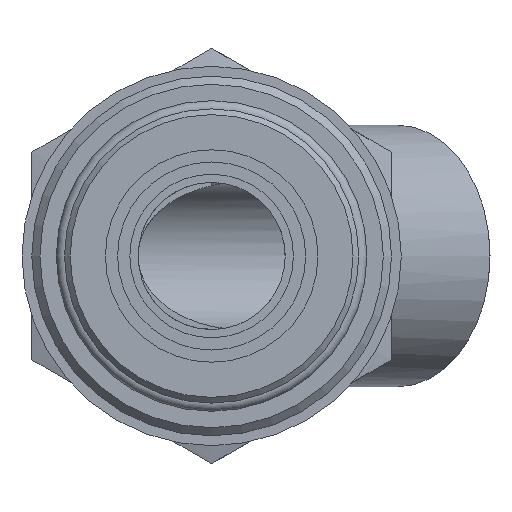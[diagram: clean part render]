
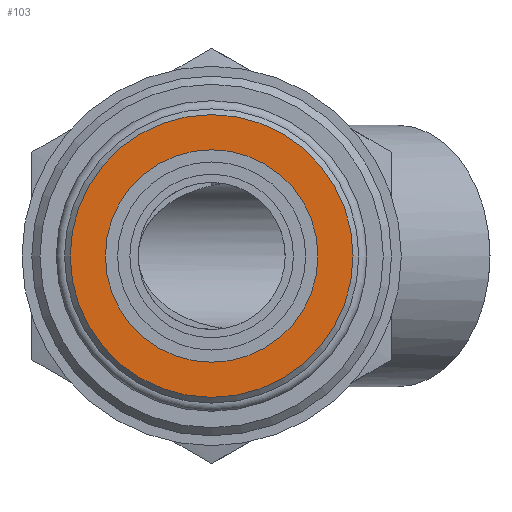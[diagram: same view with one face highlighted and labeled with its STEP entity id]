
A CAD part, left-side view. The second image highlights one B-rep face of the part: STEP entity #103.
In plain terms, the highlighted planar face has unit normal (-1, 0, 0).
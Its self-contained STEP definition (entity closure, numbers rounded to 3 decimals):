
#103 = ADVANCED_FACE( '', ( #204, #205 ), #206, .F. );
#204 = FACE_OUTER_BOUND( '', #352, .T. );
#205 = FACE_BOUND( '', #353, .T. );
#206 = PLANE( '', #354 );
#352 = EDGE_LOOP( '', ( #602 ) );
#353 = EDGE_LOOP( '', ( #603 ) );
#354 = AXIS2_PLACEMENT_3D( '', #604, #605, #606 );
#602 = ORIENTED_EDGE( '', *, *, #838, .F. );
#603 = ORIENTED_EDGE( '', *, *, #837, .T. );
#604 = CARTESIAN_POINT( '', ( -54., 0., 0. ) );
#605 = DIRECTION( '', ( 1., 0., 0. ) );
#606 = DIRECTION( '', ( 0., 0., -1. ) );
#837 = EDGE_CURVE( '', #965, #965, #966, .T. );
#838 = EDGE_CURVE( '', #967, #967, #968, .T. );
#965 = VERTEX_POINT( '', #1160 );
#966 = CIRCLE( '', #1161, 6.5 );
#967 = VERTEX_POINT( '', #1162 );
#968 = CIRCLE( '', #1163, 8.65 );
#1160 = CARTESIAN_POINT( '', ( -54., 0., -6.5 ) );
#1161 = AXIS2_PLACEMENT_3D( '', #1413, #1414, #1415 );
#1162 = CARTESIAN_POINT( '', ( -54., 0., -8.65 ) );
#1163 = AXIS2_PLACEMENT_3D( '', #1416, #1417, #1418 );
#1413 = CARTESIAN_POINT( '', ( -54., 0., 0. ) );
#1414 = DIRECTION( '', ( 1., 0., 0. ) );
#1415 = DIRECTION( '', ( 0., 0., -1. ) );
#1416 = CARTESIAN_POINT( '', ( -54., 0., 0. ) );
#1417 = DIRECTION( '', ( 1., 0., 0. ) );
#1418 = DIRECTION( '', ( 0., 0., -1. ) );
